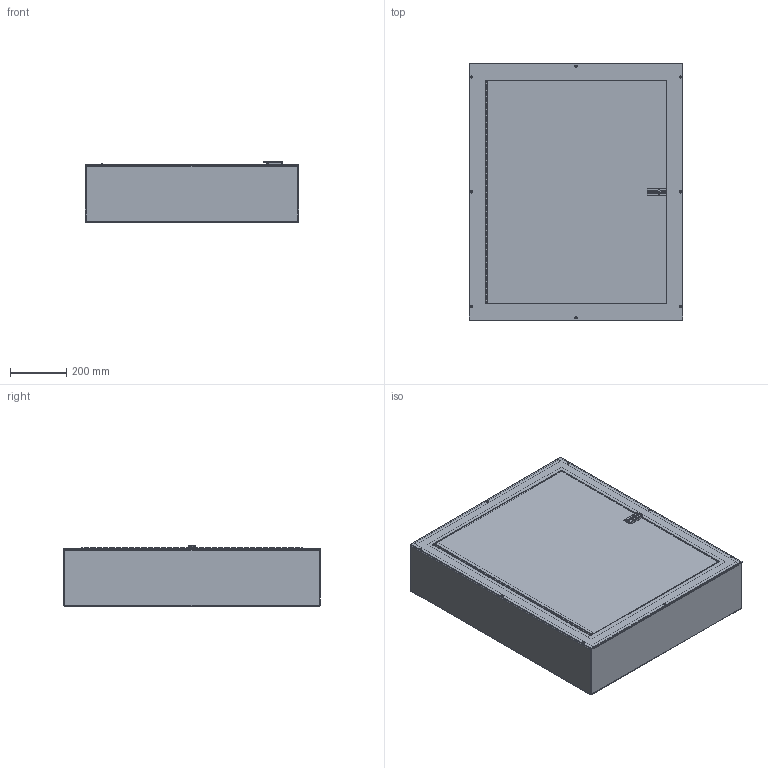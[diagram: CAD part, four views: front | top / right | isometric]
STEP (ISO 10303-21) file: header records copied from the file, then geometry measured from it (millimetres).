
FILE_DESCRIPTION (( 'STEP AP203' ), '1' );
FILE_NAME ('atc36308s.STEP', '2010-04-22T15:41:32', ( 'Hoffman User' ), ( 'Hoffman Enclosures' ), 'SwSTEP 2.0', 'SolidWorks 2009', '' );
FILE_SCHEMA (( 'CONFIG_CONTROL_DESIGN' ));
Length unit declared in the file: inch
Products named in the file (9): T90_Door_36x30; latch_87566953; atc36308s; T90_Body_36x30x8; T90_Panel_33x27; T90_DoorAssy_36x30; T90_Cover_36x30; hinge_assy_50A16_87566962_31in; Hinge_2_50a16_87566962_31in
Assembly tree (9 placements, depth 4):
  atc36308s
    T90_Body_36x30x8
    T90_DoorAssy_36x30
      latch_87566953
      T90_Cover_36x30
      hinge_assy_50A16_87566962_31in
        Hinge_2_50a16_87566962_31in  x2
      T90_Door_36x30
    T90_Panel_33x27
Bounding box: 762 x 914.4 x 216.66 mm (x, y, z)
Volume: 16220957.9 mm3; surface area: 5587507.1 mm2
Topology: 12 solids, 12 shells, 823 faces, 2291 edges, 1497 vertices
Faces by surface type: plane 425, cylinder 364, cone 12, torus 10, bspline 8, sphere 4
Entity records: 20780 total; most frequent: CARTESIAN_POINT 5159, ORIENTED_EDGE 3064, DIRECTION 2999, EDGE_CURVE 1532, AXIS2_PLACEMENT_3D 1025, VERTEX_POINT 993, VECTOR 949, LINE 949
